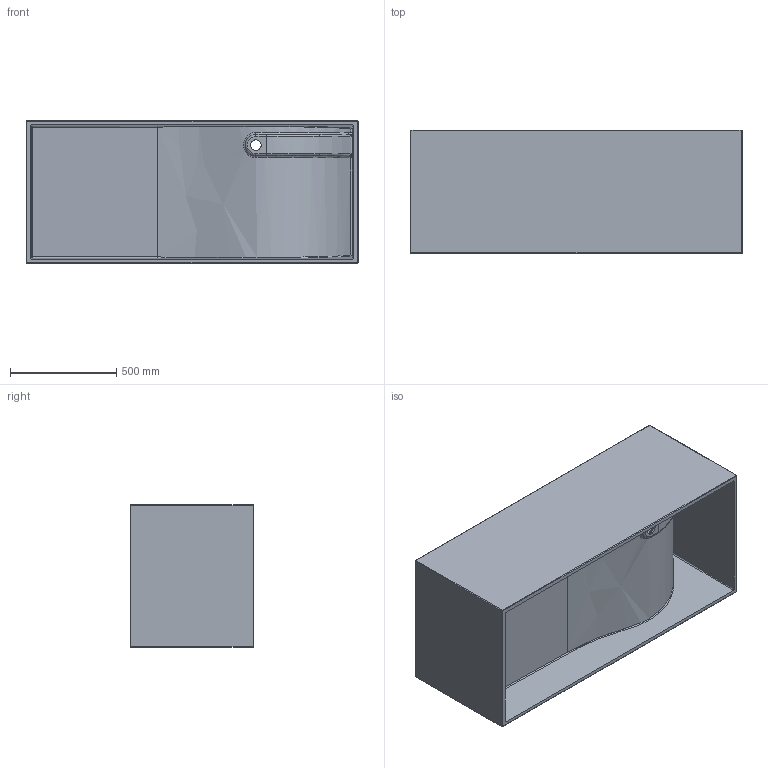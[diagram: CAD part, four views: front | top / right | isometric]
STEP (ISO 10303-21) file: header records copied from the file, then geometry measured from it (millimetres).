
FILE_DESCRIPTION (( 'STEP AP203' ), '1' );
FILE_NAME ('TC-S38S.STEP', '2017-05-07T12:14:06', ( '旮僅薊襠http://www.deepbbs.org' ), ( 'http://www.deepbbs.org' ), 'SwSTEP 2.0', 'SolidWorks 2016', '' );
FILE_SCHEMA (( 'CONFIG_CONTROL_DESIGN' ));
Length unit declared in the file: millimetre
Products named in the file (1): TC-S38S
Bounding box: 1560 x 580 x 670 mm (x, y, z)
Volume: 83160978.7 mm3; surface area: 7278335.9 mm2
Topology: 1 solids, 1 shells, 114 faces, 270 edges, 150 vertices
Faces by surface type: cylinder 43, bspline 29, plane 23, sphere 10, torus 7, cone 2
Entity records: 7692 total; most frequent: CARTESIAN_POINT 5280, ORIENTED_EDGE 512, DIRECTION 457, EDGE_CURVE 256, AXIS2_PLACEMENT_3D 179, VERTEX_POINT 146, EDGE_LOOP 120, FACE_OUTER_BOUND 114
